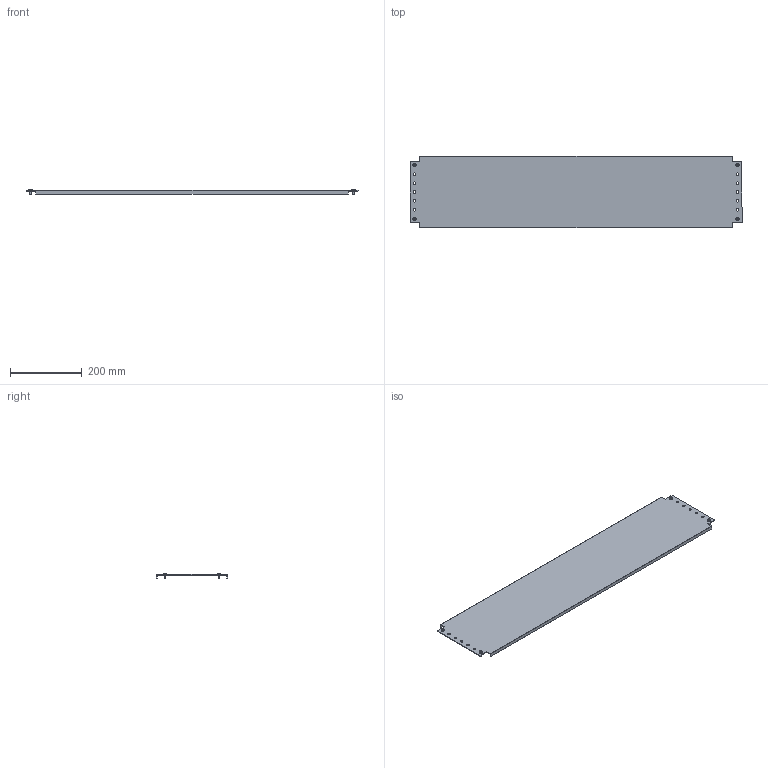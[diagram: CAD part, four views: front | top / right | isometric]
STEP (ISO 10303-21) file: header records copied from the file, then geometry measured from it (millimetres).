
FILE_DESCRIPTION (( 'STEP AP203' ), '1' );
FILE_NAME ('R6MPP021000.STEP', '2025-05-16T08:10:37', ( '' ), ( '' ), 'SwSTEP 2.0', 'SolidWorks 2022', '' );
FILE_SCHEMA (( 'CONFIG_CONTROL_DESIGN' ));
Length unit declared in the file: millimetre
Products named in the file (3): R6MPP021000; RB.3313.00.00.0 simple_-04; M5x12 DIN 7500 C Torx Zinc_stright
Assembly tree (5 placements, depth 2):
  R6MPP021000
    RB.3313.00.00.0 simple_-04
    M5x12 DIN 7500 C Torx Zinc_stright  x4
Bounding box: 925 x 198 x 15.56 mm (x, y, z)
Volume: 353307.8 mm3; surface area: 397016.5 mm2
Topology: 5 solids, 5 shells, 150 faces, 356 edges, 212 vertices
Faces by surface type: plane 58, cylinder 44, cone 16, torus 16, bspline 8, sphere 8
Entity records: 3055 total; most frequent: CARTESIAN_POINT 633, DIRECTION 446, ORIENTED_EDGE 408, EDGE_CURVE 204, AXIS2_PLACEMENT_3D 168, VERTEX_POINT 131, VECTOR 110, LINE 110
